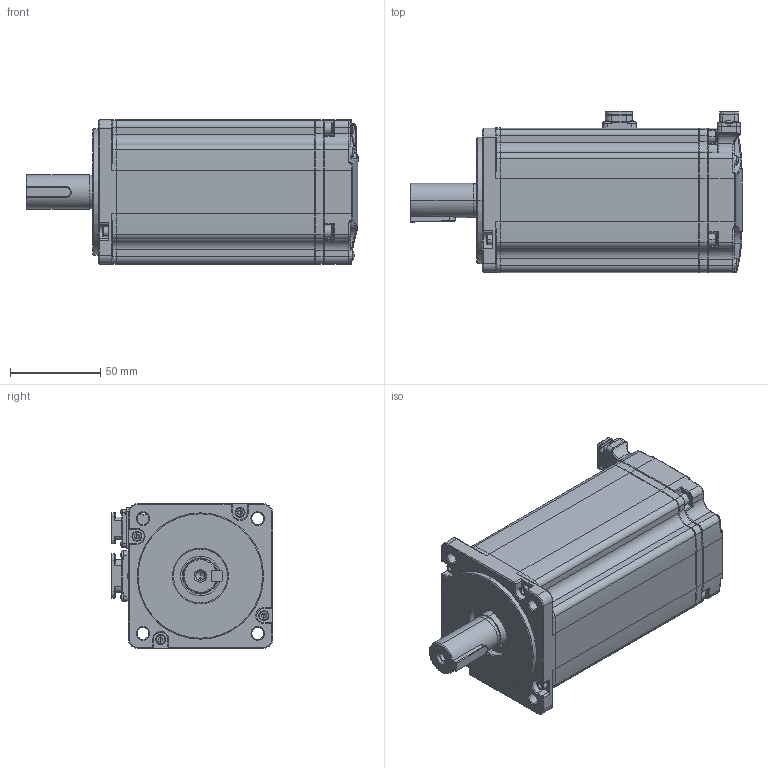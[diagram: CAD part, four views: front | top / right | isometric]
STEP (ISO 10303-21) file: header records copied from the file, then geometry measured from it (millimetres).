
FILE_DESCRIPTION (( 'STEP AP203' ), '1' );
FILE_NAME ('UMM-0007CAB-B5.STEP', '2024-08-20T10:05:54', ( '' ), ( '' ), 'SwSTEP 2.0', 'SolidWorks 2022', '' );
FILE_SCHEMA (( 'CONFIG_CONTROL_DESIGN' ));
Length unit declared in the file: millimetre
Products named in the file (1): UMM-0007CAB-B5
Bounding box: 184 x 89.3 x 80 mm (x, y, z)
Volume: 327135.5 mm3; surface area: 157564.9 mm2
Topology: 41 solids, 41 shells, 3598 faces, 9210 edges, 5765 vertices
Faces by surface type: plane 1709, cylinder 1096, bspline 461, cone 328, torus 4
Entity records: 124289 total; most frequent: CARTESIAN_POINT 39458, ORIENTED_EDGE 18280, DIRECTION 16962, EDGE_CURVE 9140, AXIS2_PLACEMENT_3D 5806, VERTEX_POINT 5765, LINE 5350, VECTOR 5350
